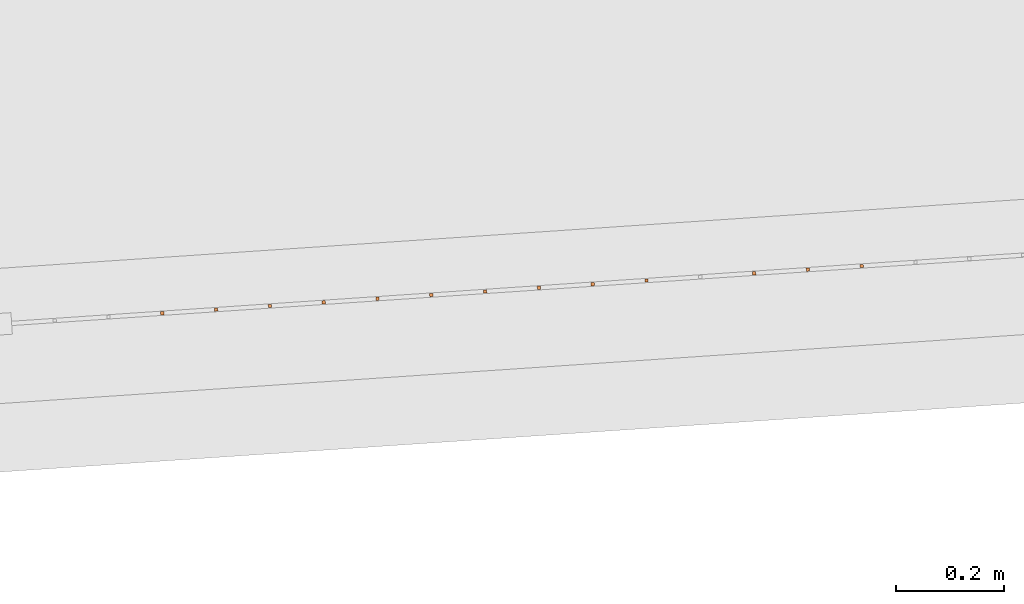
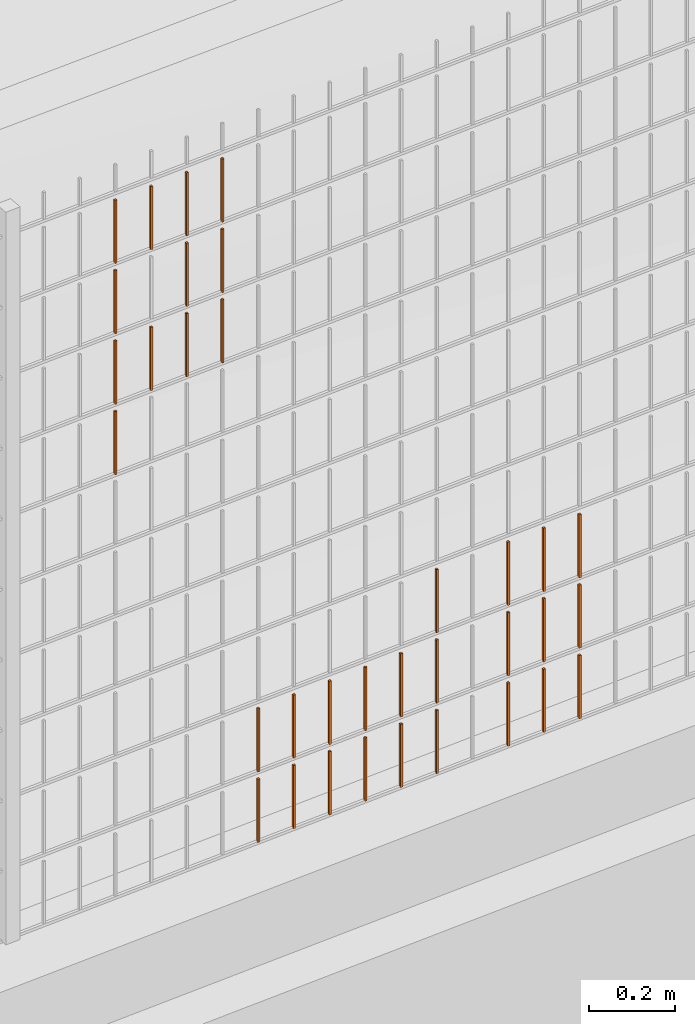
# One storey, part 374 of 1809: 34 proxies, 1 element without a shape of its own.
"""IFC2X3 building model written with IfcOpenShell, lengths in millimetres."""

from ifc_helpers import new_model, entity, si_unit, converted_unit, derived_unit, money_unit, direction, frame, origin_with_axes, place, context, subcontext, project, spatial, faceted_brep, source, transform, mapped, material, type_object, element, aggregate, save


model = new_model("IFC2X3")

# Units and contexts
model_context = context("Model", 3, precision=0.01, world=origin_with_axes(), true_north=direction((0.0, 1.0)))
body_context = subcontext(model_context, "Body", "Model", "MODEL_VIEW")
ifc_project = project(units=[si_unit("LENGTHUNIT", "METRE", prefix="MILLI"), si_unit("AREAUNIT", "SQUARE_METRE"), si_unit("VOLUMEUNIT", "CUBIC_METRE"), converted_unit("PLANEANGLEUNIT", "DEGREE", entity("IfcPlaneAngleMeasure", 0.0174532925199), si_unit("PLANEANGLEUNIT", "RADIAN"), dimensions=[0, 0, 0, 0, 0, 0, 0]), si_unit("SOLIDANGLEUNIT", "STERADIAN"), money_unit("EUR"), converted_unit("TIMEUNIT", "Year", entity("IfcTimeMeasure", 31556926.0), si_unit("TIMEUNIT", "SECOND"), dimensions=[0, 0, 1, 0, 0, 0, 0]), si_unit("MASSUNIT", "GRAM", prefix="KILO"), si_unit("THERMODYNAMICTEMPERATUREUNIT", "DEGREE_CELSIUS"), si_unit("LUMINOUSINTENSITYUNIT", "LUMEN"), si_unit("ENERGYUNIT", "JOULE", prefix="MEGA"), derived_unit("THERMALCONDUCTANCEUNIT", [(si_unit("POWERUNIT", "WATT"), 1), (si_unit("LENGTHUNIT", "METRE"), -1), (si_unit("THERMODYNAMICTEMPERATUREUNIT", "KELVIN"), -1)]), derived_unit("SPECIFICHEATCAPACITYUNIT", [(si_unit("ENERGYUNIT", "JOULE"), 1), (si_unit("MASSUNIT", "GRAM", prefix="KILO"), -1), (si_unit("THERMODYNAMICTEMPERATUREUNIT", "KELVIN"), -1)]), derived_unit("MASSDENSITYUNIT", [(si_unit("MASSUNIT", "GRAM", prefix="KILO"), 1), (si_unit("VOLUMEUNIT", "CUBIC_METRE"), -1)])], contexts=[model_context])

# Site, building, storey
site_placement = place(None, origin_with_axes())
site = spatial("IfcSite", under=ifc_project, at=site_placement, Name="Politse- ja Piirivalveameti ning Päästeameti ühishoone", CompositionType="ELEMENT")
building_placement = place(site_placement, origin_with_axes())
building = spatial("IfcBuilding", under=site, at=building_placement, Name="Politse- ja Piirivalveameti ning Päästeameti ühishoone", CompositionType="ELEMENT")
storey_placement = place(building_placement, origin_with_axes())
storey = spatial("IfcBuildingStorey", under=building, at=storey_placement, Name="Esimene korrus", CompositionType="ELEMENT", Elevation=0.0)

# Proxies
building_element_proxy_type_1 = type_object("IfcBuildingElementProxyType", Name="Railing Type", PredefinedType="NOTDEFINED")
proxy_1_placement = place(storey_placement, frame((89252.001212, -29183.4766571, 203.661247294), z_axis=(0.0, 0.0, 1.0), x_axis=(1.0, 0.0, 0.0)))
proxy_1 = element("IfcBuildingElementProxy", 1, at=proxy_1_placement, inside=storey, type_object=building_element_proxy_type_1, Name="PIIRDEAED")
ifc_material = material(Name="ET-03_Raud")
building_element_proxy_type_2 = type_object("IfcBuildingElementProxyType", Name="IfcBuildingElementProxy", PredefinedType="NOTDEFINED")
shared_shape_1 = source(origin_with_axes(), body_context, "Body", "Brep", [
    faceted_brep([(3.0, 3.0, -0.000752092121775), (-3.0, 3.0, -0.000752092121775), (-3.0, 3.0, 179.99926046), (3.0, 3.0, 179.99926046), (3.0, -3.0, 0.000752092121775), (-3.0, -3.0, 0.000752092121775), (-3.0, -3.0, 180.000764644), (3.0, -3.0, 180.000764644)], [[[0, 1, 2, 3]], [[0, 4, 5, 1]], [[1, 5, 6, 2]], [[3, 2, 6, 7]], [[4, 0, 3, 7]], [[5, 4, 7, 6]]]),
])
proxy_2_placement = place(proxy_1_placement, frame((-18883.6587166, -18573.2946436, 22.4895145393), z_axis=(0.0, 0.0, 1.0), x_axis=(1.0, 0.0, 0.0)))
proxy_2 = element("IfcBuildingElementProxy", 2, at=proxy_2_placement, type_object=building_element_proxy_type_2, material=ifc_material, Name="BALUSTER - 001", context=body_context, shape_type="MappedRepresentation", body=[
    mapped(shared_shape_1, transform((0.0, 0.0, 0.0), x_axis=(-0.0673926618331, 0.997726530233, 0.0), y_axis=(-0.997726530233, -0.0673926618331, 0.0), z_axis=(0.0, 0.0, 1.0))),
])
proxy_3_placement = place(proxy_1_placement, frame((-19083.2040226, -18586.7731759, 22.4393750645), z_axis=(0.0, 0.0, 1.0), x_axis=(1.0, 0.0, 0.0)))
proxy_3 = element("IfcBuildingElementProxy", 3, at=proxy_3_placement, type_object=building_element_proxy_type_2, material=ifc_material, Name="BALUSTER - 001", context=body_context, shape_type="MappedRepresentation", body=[
    mapped(shared_shape_1, transform((0.0, 0.0, 0.0), x_axis=(-0.0673926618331, 0.997726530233, 0.0), y_axis=(-0.997726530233, -0.0673926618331, 0.0), z_axis=(0.0, 0.0, 1.0))),
])
shared_shape_2 = source(origin_with_axes(), body_context, "Body", "Brep", [
    faceted_brep([(3.0, 3.0, -0.000752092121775), (-3.0, 3.0, -0.000752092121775), (-3.0, 3.0, 179.99926046), (3.0, 3.0, 179.99926046), (3.0, -3.0, 0.000752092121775), (-3.0, -3.0, 0.000752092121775), (-3.0, -3.0, 180.000764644), (3.0, -3.0, 180.000764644)], [[[0, 1, 2, 3]], [[0, 4, 5, 1]], [[1, 5, 6, 2]], [[3, 2, 6, 7]], [[4, 0, 3, 7]], [[5, 4, 7, 6]]]),
])
proxy_4_placement = place(proxy_1_placement, frame((-18384.7954515, -18539.5983126, 22.6148632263), z_axis=(0.0, 0.0, 1.0), x_axis=(1.0, 0.0, 0.0)))
proxy_4 = element("IfcBuildingElementProxy", 4, at=proxy_4_placement, type_object=building_element_proxy_type_2, material=ifc_material, Name="BALUSTER - 001", context=body_context, shape_type="MappedRepresentation", body=[
    mapped(shared_shape_2, transform((0.0, 0.0, 0.0), x_axis=(-0.0673926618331, 0.997726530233, 0.0), y_axis=(-0.997726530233, -0.0673926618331, 0.0), z_axis=(0.0, 0.0, 1.0))),
])
shared_shape_3 = source(origin_with_axes(), body_context, "Body", "Brep", [
    faceted_brep([(3.0, 3.0, -0.000752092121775), (-3.0, 3.0, -0.000752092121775), (-3.0, 3.0, 179.99926046), (3.0, 3.0, 179.99926046), (3.0, -3.0, 0.000752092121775), (-3.0, -3.0, 0.000752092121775), (-3.0, -3.0, 180.000764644), (3.0, -3.0, 180.000764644)], [[[0, 1, 2, 3]], [[0, 4, 5, 1]], [[1, 5, 6, 2]], [[3, 2, 6, 7]], [[4, 0, 3, 7]], [[5, 4, 7, 6]]]),
])
proxy_5_placement = place(proxy_1_placement, frame((-19382.5219817, -18606.9909745, 1422.36416585), z_axis=(0.0, 0.0, 1.0), x_axis=(1.0, 0.0, 0.0)))
proxy_5 = element("IfcBuildingElementProxy", 5, at=proxy_5_placement, type_object=building_element_proxy_type_2, material=ifc_material, Name="BALUSTER - 001", context=body_context, shape_type="MappedRepresentation", body=[
    mapped(shared_shape_3, transform((0.0, 0.0, 0.0), x_axis=(-0.0673926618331, 0.997726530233, 0.0), y_axis=(-0.997726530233, -0.0673926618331, 0.0), z_axis=(0.0, 0.0, 1.0))),
])
shared_shape_4 = source(origin_with_axes(), body_context, "Body", "Brep", [
    faceted_brep([(3.0, 3.0, -0.000752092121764), (-3.0, 3.0, -0.000752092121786), (-3.0, 3.0, 179.99926046), (3.0, 3.0, 179.99926046), (3.0, -3.0, 0.000752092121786), (-3.0, -3.0, 0.000752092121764), (-3.0, -3.0, 180.000764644), (3.0, -3.0, 180.000764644)], [[[0, 1, 2, 3]], [[0, 4, 5, 1]], [[1, 5, 6, 2]], [[3, 2, 6, 7]], [[4, 0, 3, 7]], [[5, 4, 7, 6]]]),
])
proxy_6_placement = place(proxy_1_placement, frame((-18285.0227984, -18532.8590465, 22.6399329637), z_axis=(0.0, 0.0, 1.0), x_axis=(1.0, 0.0, 0.0)))
proxy_6 = element("IfcBuildingElementProxy", 6, at=proxy_6_placement, type_object=building_element_proxy_type_2, material=ifc_material, Name="BALUSTER - 001", context=body_context, shape_type="MappedRepresentation", body=[
    mapped(shared_shape_4, transform((0.0, 0.0, 0.0), x_axis=(-0.0673926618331, 0.997726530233, 0.0), y_axis=(-0.997726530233, -0.0673926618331, 0.0), z_axis=(0.0, 0.0, 1.0))),
])
shared_shape_5 = source(origin_with_axes(), body_context, "Body", "Brep", [
    faceted_brep([(3.0, 3.0, -0.000752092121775), (-3.0, 3.0, -0.000752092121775), (-3.0, 3.0, 179.99926046), (3.0, 3.0, 179.99926046), (3.0, -3.0, 0.000752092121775), (-3.0, -3.0, 0.000752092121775), (-3.0, -3.0, 180.000764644), (3.0, -3.0, 180.000764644)], [[[0, 1, 2, 3]], [[0, 4, 5, 1]], [[1, 5, 6, 2]], [[3, 2, 6, 7]], [[4, 0, 3, 7]], [[5, 4, 7, 6]]]),
])
proxy_7_placement = place(proxy_1_placement, frame((-18384.7954515, -18539.5983126, 222.614863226), z_axis=(0.0, 0.0, 1.0), x_axis=(1.0, 0.0, 0.0)))
proxy_7 = element("IfcBuildingElementProxy", 7, at=proxy_7_placement, type_object=building_element_proxy_type_2, material=ifc_material, Name="BALUSTER - 001", context=body_context, shape_type="MappedRepresentation", body=[
    mapped(shared_shape_5, transform((0.0, 0.0, 0.0), x_axis=(-0.0673926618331, 0.997726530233, 0.0), y_axis=(-0.997726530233, -0.0673926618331, 0.0), z_axis=(0.0, 0.0, 1.0))),
])
proxy_8_placement = place(proxy_1_placement, frame((-18384.7954515, -18539.5983126, 422.614863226), z_axis=(0.0, 0.0, 1.0), x_axis=(1.0, 0.0, 0.0)))
proxy_8 = element("IfcBuildingElementProxy", 8, at=proxy_8_placement, type_object=building_element_proxy_type_2, material=ifc_material, Name="BALUSTER - 001", context=body_context, shape_type="MappedRepresentation", body=[
    mapped(shared_shape_5, transform((0.0, 0.0, 0.0), x_axis=(-0.0673926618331, 0.997726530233, 0.0), y_axis=(-0.997726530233, -0.0673926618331, 0.0), z_axis=(0.0, 0.0, 1.0))),
])
shared_shape_6 = source(origin_with_axes(), body_context, "Body", "Brep", [
    faceted_brep([(3.0, 3.0, -0.000752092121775), (-3.0, 3.0, -0.000752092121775), (-3.0, 3.0, 179.99926046), (3.0, 3.0, 179.99926046), (3.0, -3.0, 0.000752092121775), (-3.0, -3.0, 0.000752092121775), (-3.0, -3.0, 180.000764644), (3.0, -3.0, 180.000764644)], [[[0, 1, 2, 3]], [[0, 4, 5, 1]], [[1, 5, 6, 2]], [[3, 2, 6, 7]], [[4, 0, 3, 7]], [[5, 4, 7, 6]]]),
])
proxy_9_placement = place(proxy_1_placement, frame((-18883.6587166, -18573.2946436, 222.489514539), z_axis=(0.0, 0.0, 1.0), x_axis=(1.0, 0.0, 0.0)))
proxy_9 = element("IfcBuildingElementProxy", 9, at=proxy_9_placement, type_object=building_element_proxy_type_2, material=ifc_material, Name="BALUSTER - 001", context=body_context, shape_type="MappedRepresentation", body=[
    mapped(shared_shape_6, transform((0.0, 0.0, 0.0), x_axis=(-0.0673926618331, 0.997726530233, 0.0), y_axis=(-0.997726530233, -0.0673926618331, 0.0), z_axis=(0.0, 0.0, 1.0))),
])
shared_shape_7 = source(origin_with_axes(), body_context, "Body", "Brep", [
    faceted_brep([(3.0, 3.0, -0.000752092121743), (-3.0, 3.0, -0.000752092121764), (-3.0, 3.0, 179.99926046), (3.0, 3.0, 179.99926046), (3.0, -3.0, 0.000752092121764), (-3.0, -3.0, 0.000752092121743), (-3.0, -3.0, 180.000764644), (3.0, -3.0, 180.000764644)], [[[0, 1, 2, 3]], [[0, 4, 5, 1]], [[1, 5, 6, 2]], [[3, 2, 6, 7]], [[4, 0, 3, 7]], [[5, 4, 7, 6]]]),
])
proxy_10_placement = place(proxy_1_placement, frame((-18584.3407575, -18553.076845, 422.564723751), z_axis=(0.0, 0.0, 1.0), x_axis=(1.0, 0.0, 0.0)))
proxy_10 = element("IfcBuildingElementProxy", 10, at=proxy_10_placement, type_object=building_element_proxy_type_2, material=ifc_material, Name="BALUSTER - 001", context=body_context, shape_type="MappedRepresentation", body=[
    mapped(shared_shape_7, transform((0.0, 0.0, 0.0), x_axis=(-0.0673926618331, 0.997726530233, 0.0), y_axis=(-0.997726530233, -0.0673926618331, 0.0), z_axis=(0.0, 0.0, 1.0))),
])
shared_shape_8 = source(origin_with_axes(), body_context, "Body", "Brep", [
    faceted_brep([(3.0, 3.0, -0.000752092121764), (-3.0, 3.0, -0.000752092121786), (-3.0, 3.0, 179.99926046), (3.0, 3.0, 179.99926046), (3.0, -3.0, 0.000752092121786), (-3.0, -3.0, 0.000752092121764), (-3.0, -3.0, 180.000764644), (3.0, -3.0, 180.000764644)], [[[0, 1, 2, 3]], [[0, 4, 5, 1]], [[1, 5, 6, 2]], [[3, 2, 6, 7]], [[4, 0, 3, 7]], [[5, 4, 7, 6]]]),
])
proxy_11_placement = place(proxy_1_placement, frame((-18285.0227984, -18532.8590465, 222.639932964), z_axis=(0.0, 0.0, 1.0), x_axis=(1.0, 0.0, 0.0)))
proxy_11 = element("IfcBuildingElementProxy", 11, at=proxy_11_placement, type_object=building_element_proxy_type_2, material=ifc_material, Name="BALUSTER - 001", context=body_context, shape_type="MappedRepresentation", body=[
    mapped(shared_shape_8, transform((0.0, 0.0, 0.0), x_axis=(-0.0673926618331, 0.997726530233, 0.0), y_axis=(-0.997726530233, -0.0673926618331, 0.0), z_axis=(0.0, 0.0, 1.0))),
])
shared_shape_9 = source(origin_with_axes(), body_context, "Body", "Brep", [
    faceted_brep([(3.0, 3.0, -0.000752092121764), (-3.0, 3.0, -0.000752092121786), (-3.0, 3.0, 179.99926046), (3.0, 3.0, 179.99926046), (3.0, -3.0, 0.000752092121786), (-3.0, -3.0, 0.000752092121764), (-3.0, -3.0, 180.000764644), (3.0, -3.0, 180.000764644)], [[[0, 1, 2, 3]], [[0, 4, 5, 1]], [[1, 5, 6, 2]], [[3, 2, 6, 7]], [[4, 0, 3, 7]], [[5, 4, 7, 6]]]),
])
proxy_12_placement = place(proxy_1_placement, frame((-18783.8860636, -18566.5553774, 222.514584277), z_axis=(0.0, 0.0, 1.0), x_axis=(1.0, 0.0, 0.0)))
proxy_12 = element("IfcBuildingElementProxy", 12, at=proxy_12_placement, type_object=building_element_proxy_type_2, material=ifc_material, Name="BALUSTER - 001", context=body_context, shape_type="MappedRepresentation", body=[
    mapped(shared_shape_9, transform((0.0, 0.0, 0.0), x_axis=(-0.0673926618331, 0.997726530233, 0.0), y_axis=(-0.997726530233, -0.0673926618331, 0.0), z_axis=(0.0, 0.0, 1.0))),
])
proxy_13_placement = place(proxy_1_placement, frame((-18285.0227984, -18532.8590465, 422.639932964), z_axis=(0.0, 0.0, 1.0), x_axis=(1.0, 0.0, 0.0)))
proxy_13 = element("IfcBuildingElementProxy", 13, at=proxy_13_placement, type_object=building_element_proxy_type_2, material=ifc_material, Name="BALUSTER - 001", context=body_context, shape_type="MappedRepresentation", body=[
    mapped(shared_shape_9, transform((0.0, 0.0, 0.0), x_axis=(-0.0673926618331, 0.997726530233, 0.0), y_axis=(-0.997726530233, -0.0673926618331, 0.0), z_axis=(0.0, 0.0, 1.0))),
])
shared_shape_10 = source(origin_with_axes(), body_context, "Body", "Brep", [
    faceted_brep([(3.0, 3.0, -0.000752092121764), (-3.0, 3.0, -0.000752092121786), (-3.0, 3.0, 179.99926046), (3.0, 3.0, 179.99926046), (3.0, -3.0, 0.000752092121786), (-3.0, -3.0, 0.000752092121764), (-3.0, -3.0, 180.000764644), (3.0, -3.0, 180.000764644)], [[[0, 1, 2, 3]], [[0, 4, 5, 1]], [[1, 5, 6, 2]], [[3, 2, 6, 7]], [[4, 0, 3, 7]], [[5, 4, 7, 6]]]),
])
proxy_14_placement = place(proxy_1_placement, frame((-18185.2501454, -18526.1197803, 222.665002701), z_axis=(0.0, 0.0, 1.0), x_axis=(1.0, 0.0, 0.0)))
proxy_14 = element("IfcBuildingElementProxy", 14, at=proxy_14_placement, type_object=building_element_proxy_type_2, material=ifc_material, Name="BALUSTER - 001", context=body_context, shape_type="MappedRepresentation", body=[
    mapped(shared_shape_10, transform((0.0, 0.0, 0.0), x_axis=(-0.0673926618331, 0.997726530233, 0.0), y_axis=(-0.997726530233, -0.0673926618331, 0.0), z_axis=(0.0, 0.0, 1.0))),
])
proxy_15_placement = place(proxy_1_placement, frame((-18185.2501454, -18526.1197803, 422.665002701), z_axis=(0.0, 0.0, 1.0), x_axis=(1.0, 0.0, 0.0)))
proxy_15 = element("IfcBuildingElementProxy", 15, at=proxy_15_placement, type_object=building_element_proxy_type_2, material=ifc_material, Name="BALUSTER - 001", context=body_context, shape_type="MappedRepresentation", body=[
    mapped(shared_shape_10, transform((0.0, 0.0, 0.0), x_axis=(-0.0673926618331, 0.997726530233, 0.0), y_axis=(-0.997726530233, -0.0673926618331, 0.0), z_axis=(0.0, 0.0, 1.0))),
])
shared_shape_11 = source(origin_with_axes(), body_context, "Body", "Brep", [
    faceted_brep([(3.0, 3.0, -0.000752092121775), (-3.0, 3.0, -0.000752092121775), (-3.0, 3.0, 179.99926046), (3.0, 3.0, 179.99926046), (3.0, -3.0, 0.000752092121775), (-3.0, -3.0, 0.000752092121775), (-3.0, -3.0, 180.000764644), (3.0, -3.0, 180.000764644)], [[[0, 1, 2, 3]], [[0, 4, 5, 1]], [[1, 5, 6, 2]], [[3, 2, 6, 7]], [[4, 0, 3, 7]], [[5, 4, 7, 6]]]),
])
proxy_16_placement = place(proxy_1_placement, frame((-19482.2946347, -18613.7302407, 1222.33909611), z_axis=(0.0, 0.0, 1.0), x_axis=(1.0, 0.0, 0.0)))
proxy_16 = element("IfcBuildingElementProxy", 16, at=proxy_16_placement, type_object=building_element_proxy_type_2, material=ifc_material, Name="BALUSTER - 001", context=body_context, shape_type="MappedRepresentation", body=[
    mapped(shared_shape_11, transform((0.0, 0.0, 0.0), x_axis=(-0.0673926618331, 0.997726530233, 0.0), y_axis=(-0.997726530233, -0.0673926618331, 0.0), z_axis=(0.0, 0.0, 1.0))),
])
shared_shape_12 = source(origin_with_axes(), body_context, "Body", "Brep", [
    faceted_brep([(3.0, 3.0, -0.000752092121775), (-3.0, 3.0, -0.000752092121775), (-3.0, 3.0, 179.99926046), (3.0, 3.0, 179.99926046), (3.0, -3.0, 0.000752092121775), (-3.0, -3.0, 0.000752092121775), (-3.0, -3.0, 180.000764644), (3.0, -3.0, 180.000764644)], [[[0, 1, 2, 3]], [[0, 4, 5, 1]], [[1, 5, 6, 2]], [[3, 2, 6, 7]], [[4, 0, 3, 7]], [[5, 4, 7, 6]]]),
])
proxy_17_placement = place(proxy_1_placement, frame((-19182.9766757, -18593.5124421, 1822.41430533), z_axis=(0.0, 0.0, 1.0), x_axis=(1.0, 0.0, 0.0)))
proxy_17 = element("IfcBuildingElementProxy", 17, at=proxy_17_placement, type_object=building_element_proxy_type_2, material=ifc_material, Name="BALUSTER - 001", context=body_context, shape_type="MappedRepresentation", body=[
    mapped(shared_shape_12, transform((0.0, 0.0, 0.0), x_axis=(-0.0673926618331, 0.997726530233, 0.0), y_axis=(-0.997726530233, -0.0673926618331, 0.0), z_axis=(0.0, 0.0, 1.0))),
])
shared_shape_13 = source(origin_with_axes(), body_context, "Body", "Brep", [
    faceted_brep([(3.0, 3.0, -0.000752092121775), (-3.0, 3.0, -0.000752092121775), (-3.0, 3.0, 179.99926046), (3.0, 3.0, 179.99926046), (3.0, -3.0, 0.000752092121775), (-3.0, -3.0, 0.000752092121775), (-3.0, -3.0, 180.000764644), (3.0, -3.0, 180.000764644)], [[[0, 1, 2, 3]], [[0, 4, 5, 1]], [[1, 5, 6, 2]], [[3, 2, 6, 7]], [[4, 0, 3, 7]], [[5, 4, 7, 6]]]),
])
proxy_18_placement = place(proxy_1_placement, frame((-19382.5219817, -18606.9909745, 1822.36416585), z_axis=(0.0, 0.0, 1.0), x_axis=(1.0, 0.0, 0.0)))
proxy_18 = element("IfcBuildingElementProxy", 18, at=proxy_18_placement, type_object=building_element_proxy_type_2, material=ifc_material, Name="BALUSTER - 001", context=body_context, shape_type="MappedRepresentation", body=[
    mapped(shared_shape_13, transform((0.0, 0.0, 0.0), x_axis=(-0.0673926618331, 0.997726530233, 0.0), y_axis=(-0.997726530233, -0.0673926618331, 0.0), z_axis=(0.0, 0.0, 1.0))),
])
shared_shape_14 = source(origin_with_axes(), body_context, "Body", "Brep", [
    faceted_brep([(3.0, 3.0, -0.000752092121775), (-3.0, 3.0, -0.000752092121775), (-3.0, 3.0, 179.99926046), (3.0, 3.0, 179.99926046), (3.0, -3.0, 0.000752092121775), (-3.0, -3.0, 0.000752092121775), (-3.0, -3.0, 180.000764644), (3.0, -3.0, 180.000764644)], [[[0, 1, 2, 3]], [[0, 4, 5, 1]], [[1, 5, 6, 2]], [[3, 2, 6, 7]], [[4, 0, 3, 7]], [[5, 4, 7, 6]]]),
])
proxy_19_placement = place(proxy_1_placement, frame((-19482.2946347, -18613.7302407, 1822.33909611), z_axis=(0.0, 0.0, 1.0), x_axis=(1.0, 0.0, 0.0)))
proxy_19 = element("IfcBuildingElementProxy", 19, at=proxy_19_placement, type_object=building_element_proxy_type_2, material=ifc_material, Name="BALUSTER - 001", context=body_context, shape_type="MappedRepresentation", body=[
    mapped(shared_shape_14, transform((0.0, 0.0, 0.0), x_axis=(-0.0673926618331, 0.997726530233, 0.0), y_axis=(-0.997726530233, -0.0673926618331, 0.0), z_axis=(0.0, 0.0, 1.0))),
])
shared_shape_15 = source(origin_with_axes(), body_context, "Body", "Brep", [
    faceted_brep([(3.0, 3.0, -0.000752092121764), (-3.0, 3.0, -0.000752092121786), (-3.0, 3.0, 179.99926046), (3.0, 3.0, 179.99926046), (3.0, -3.0, 0.000752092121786), (-3.0, -3.0, 0.000752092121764), (-3.0, -3.0, 180.000764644), (3.0, -3.0, 180.000764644)], [[[0, 1, 2, 3]], [[0, 4, 5, 1]], [[1, 5, 6, 2]], [[3, 2, 6, 7]], [[4, 0, 3, 7]], [[5, 4, 7, 6]]]),
])
proxy_20_placement = place(proxy_1_placement, frame((-19282.7493287, -18600.2517083, 1822.38923559), z_axis=(0.0, 0.0, 1.0), x_axis=(1.0, 0.0, 0.0)))
proxy_20 = element("IfcBuildingElementProxy", 20, at=proxy_20_placement, type_object=building_element_proxy_type_2, material=ifc_material, Name="BALUSTER - 001", context=body_context, shape_type="MappedRepresentation", body=[
    mapped(shared_shape_15, transform((0.0, 0.0, 0.0), x_axis=(-0.0673926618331, 0.997726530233, 0.0), y_axis=(-0.997726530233, -0.0673926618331, 0.0), z_axis=(0.0, 0.0, 1.0))),
])
shared_shape_16 = source(origin_with_axes(), body_context, "Body", "Brep", [
    faceted_brep([(3.0, 3.0, -0.000752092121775), (-3.0, 3.0, -0.000752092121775), (-3.0, 3.0, 179.99926046), (3.0, 3.0, 179.99926046), (3.0, -3.0, 0.000752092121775), (-3.0, -3.0, 0.000752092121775), (-3.0, -3.0, 180.000764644), (3.0, -3.0, 180.000764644)], [[[0, 1, 2, 3]], [[0, 4, 5, 1]], [[1, 5, 6, 2]], [[3, 2, 6, 7]], [[4, 0, 3, 7]], [[5, 4, 7, 6]]]),
])
proxy_21_placement = place(proxy_1_placement, frame((-19182.9766757, -18593.5124421, 1422.41430533), z_axis=(0.0, 0.0, 1.0), x_axis=(1.0, 0.0, 0.0)))
proxy_21 = element("IfcBuildingElementProxy", 21, at=proxy_21_placement, type_object=building_element_proxy_type_2, material=ifc_material, Name="BALUSTER - 001", context=body_context, shape_type="MappedRepresentation", body=[
    mapped(shared_shape_16, transform((0.0, 0.0, 0.0), x_axis=(-0.0673926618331, 0.997726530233, 0.0), y_axis=(-0.997726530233, -0.0673926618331, 0.0), z_axis=(0.0, 0.0, 1.0))),
])
proxy_22_placement = place(proxy_1_placement, frame((-19182.9766757, -18593.5124421, 1622.41430533), z_axis=(0.0, 0.0, 1.0), x_axis=(1.0, 0.0, 0.0)))
proxy_22 = element("IfcBuildingElementProxy", 22, at=proxy_22_placement, type_object=building_element_proxy_type_2, material=ifc_material, Name="BALUSTER - 001", context=body_context, shape_type="MappedRepresentation", body=[
    mapped(shared_shape_16, transform((0.0, 0.0, 0.0), x_axis=(-0.0673926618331, 0.997726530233, 0.0), y_axis=(-0.997726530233, -0.0673926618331, 0.0), z_axis=(0.0, 0.0, 1.0))),
])
shared_shape_17 = source(origin_with_axes(), body_context, "Body", "Brep", [
    faceted_brep([(3.0, 3.0, -0.000752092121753), (-3.0, 3.0, -0.000752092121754), (-3.0, 3.0, 179.99926046), (3.0, 3.0, 179.99926046), (3.0, -3.0, 0.000752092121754), (-3.0, -3.0, 0.000752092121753), (-3.0, -3.0, 180.000764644), (3.0, -3.0, 180.000764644)], [[[0, 1, 2, 3]], [[0, 4, 5, 1]], [[1, 5, 6, 2]], [[3, 2, 6, 7]], [[4, 0, 3, 7]], [[5, 4, 7, 6]]]),
])
proxy_23_placement = place(proxy_1_placement, frame((-18684.1134105, -18559.8161112, 22.5396540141), z_axis=(0.0, 0.0, 1.0), x_axis=(1.0, 0.0, 0.0)))
proxy_23 = element("IfcBuildingElementProxy", 23, at=proxy_23_placement, type_object=building_element_proxy_type_2, material=ifc_material, Name="BALUSTER - 001", context=body_context, shape_type="MappedRepresentation", body=[
    mapped(shared_shape_17, transform((0.0, 0.0, 0.0), x_axis=(-0.0673926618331, 0.997726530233, 0.0), y_axis=(-0.997726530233, -0.0673926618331, 0.0), z_axis=(0.0, 0.0, 1.0))),
])
proxy_24_placement = place(proxy_1_placement, frame((-18684.1134105, -18559.8161112, 222.539654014), z_axis=(0.0, 0.0, 1.0), x_axis=(1.0, 0.0, 0.0)))
proxy_24 = element("IfcBuildingElementProxy", 24, at=proxy_24_placement, type_object=building_element_proxy_type_2, material=ifc_material, Name="BALUSTER - 001", context=body_context, shape_type="MappedRepresentation", body=[
    mapped(shared_shape_17, transform((0.0, 0.0, 0.0), x_axis=(-0.0673926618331, 0.997726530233, 0.0), y_axis=(-0.997726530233, -0.0673926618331, 0.0), z_axis=(0.0, 0.0, 1.0))),
])
shared_shape_18 = source(origin_with_axes(), body_context, "Body", "Brep", [
    faceted_brep([(3.0, 3.0, -0.000752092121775), (-3.0, 3.0, -0.000752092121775), (-3.0, 3.0, 179.99926046), (3.0, 3.0, 179.99926046), (3.0, -3.0, 0.000752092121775), (-3.0, -3.0, 0.000752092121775), (-3.0, -3.0, 180.000764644), (3.0, -3.0, 180.000764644)], [[[0, 1, 2, 3]], [[0, 4, 5, 1]], [[1, 5, 6, 2]], [[3, 2, 6, 7]], [[4, 0, 3, 7]], [[5, 4, 7, 6]]]),
])
proxy_25_placement = place(proxy_1_placement, frame((-19482.2946347, -18613.7302407, 1422.33909611), z_axis=(0.0, 0.0, 1.0), x_axis=(1.0, 0.0, 0.0)))
proxy_25 = element("IfcBuildingElementProxy", 25, at=proxy_25_placement, type_object=building_element_proxy_type_2, material=ifc_material, Name="BALUSTER - 001", context=body_context, shape_type="MappedRepresentation", body=[
    mapped(shared_shape_18, transform((0.0, 0.0, 0.0), x_axis=(-0.0673926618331, 0.997726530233, 0.0), y_axis=(-0.997726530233, -0.0673926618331, 0.0), z_axis=(0.0, 0.0, 1.0))),
])
proxy_26_placement = place(proxy_1_placement, frame((-19482.2946347, -18613.7302407, 1622.33909611), z_axis=(0.0, 0.0, 1.0), x_axis=(1.0, 0.0, 0.0)))
proxy_26 = element("IfcBuildingElementProxy", 26, at=proxy_26_placement, type_object=building_element_proxy_type_2, material=ifc_material, Name="BALUSTER - 001", context=body_context, shape_type="MappedRepresentation", body=[
    mapped(shared_shape_18, transform((0.0, 0.0, 0.0), x_axis=(-0.0673926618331, 0.997726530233, 0.0), y_axis=(-0.997726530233, -0.0673926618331, 0.0), z_axis=(0.0, 0.0, 1.0))),
])
shared_shape_19 = source(origin_with_axes(), body_context, "Body", "Brep", [
    faceted_brep([(3.0, 3.0, -0.000752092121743), (-3.0, 3.0, -0.000752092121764), (-3.0, 3.0, 179.99926046), (3.0, 3.0, 179.99926046), (3.0, -3.0, 0.000752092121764), (-3.0, -3.0, 0.000752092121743), (-3.0, -3.0, 180.000764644), (3.0, -3.0, 180.000764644)], [[[0, 1, 2, 3]], [[0, 4, 5, 1]], [[1, 5, 6, 2]], [[3, 2, 6, 7]], [[4, 0, 3, 7]], [[5, 4, 7, 6]]]),
])
proxy_27_placement = place(proxy_1_placement, frame((-18584.3407575, -18553.076845, 22.5647237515), z_axis=(0.0, 0.0, 1.0), x_axis=(1.0, 0.0, 0.0)))
proxy_27 = element("IfcBuildingElementProxy", 27, at=proxy_27_placement, type_object=building_element_proxy_type_2, material=ifc_material, Name="BALUSTER - 001", context=body_context, shape_type="MappedRepresentation", body=[
    mapped(shared_shape_19, transform((0.0, 0.0, 0.0), x_axis=(-0.0673926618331, 0.997726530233, 0.0), y_axis=(-0.997726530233, -0.0673926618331, 0.0), z_axis=(0.0, 0.0, 1.0))),
])
shared_shape_20 = source(origin_with_axes(), body_context, "Body", "Brep", [
    faceted_brep([(3.0, 3.0, -0.000752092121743), (-3.0, 3.0, -0.000752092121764), (-3.0, 3.0, 179.99926046), (3.0, 3.0, 179.99926046), (3.0, -3.0, 0.000752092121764), (-3.0, -3.0, 0.000752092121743), (-3.0, -3.0, 180.000764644), (3.0, -3.0, 180.000764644)], [[[0, 1, 2, 3]], [[0, 4, 5, 1]], [[1, 5, 6, 2]], [[3, 2, 6, 7]], [[4, 0, 3, 7]], [[5, 4, 7, 6]]]),
])
proxy_28_placement = place(proxy_1_placement, frame((-18584.3407575, -18553.076845, 222.564723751), z_axis=(0.0, 0.0, 1.0), x_axis=(1.0, 0.0, 0.0)))
proxy_28 = element("IfcBuildingElementProxy", 28, at=proxy_28_placement, type_object=building_element_proxy_type_2, material=ifc_material, Name="BALUSTER - 001", context=body_context, shape_type="MappedRepresentation", body=[
    mapped(shared_shape_20, transform((0.0, 0.0, 0.0), x_axis=(-0.0673926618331, 0.997726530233, 0.0), y_axis=(-0.997726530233, -0.0673926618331, 0.0), z_axis=(0.0, 0.0, 1.0))),
])
shared_shape_21 = source(origin_with_axes(), body_context, "Body", "Brep", [
    faceted_brep([(3.0, 3.0, -0.000752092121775), (-3.0, 3.0, -0.000752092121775), (-3.0, 3.0, 179.99926046), (3.0, 3.0, 179.99926046), (3.0, -3.0, 0.000752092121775), (-3.0, -3.0, 0.000752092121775), (-3.0, -3.0, 180.000764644), (3.0, -3.0, 180.000764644)], [[[0, 1, 2, 3]], [[0, 4, 5, 1]], [[1, 5, 6, 2]], [[3, 2, 6, 7]], [[4, 0, 3, 7]], [[5, 4, 7, 6]]]),
])
proxy_29_placement = place(proxy_1_placement, frame((-18983.4313696, -18580.0339097, 222.464444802), z_axis=(0.0, 0.0, 1.0), x_axis=(1.0, 0.0, 0.0)))
proxy_29 = element("IfcBuildingElementProxy", 29, at=proxy_29_placement, type_object=building_element_proxy_type_2, material=ifc_material, Name="BALUSTER - 001", context=body_context, shape_type="MappedRepresentation", body=[
    mapped(shared_shape_21, transform((0.0, 0.0, 0.0), x_axis=(-0.0673926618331, 0.997726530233, 0.0), y_axis=(-0.997726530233, -0.0673926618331, 0.0), z_axis=(0.0, 0.0, 1.0))),
])
shared_shape_22 = source(origin_with_axes(), body_context, "Body", "Brep", [
    faceted_brep([(3.0, 3.0, -0.000752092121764), (-3.0, 3.0, -0.000752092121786), (-3.0, 3.0, 179.99926046), (3.0, 3.0, 179.99926046), (3.0, -3.0, 0.000752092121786), (-3.0, -3.0, 0.000752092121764), (-3.0, -3.0, 180.000764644), (3.0, -3.0, 180.000764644)], [[[0, 1, 2, 3]], [[0, 4, 5, 1]], [[1, 5, 6, 2]], [[3, 2, 6, 7]], [[4, 0, 3, 7]], [[5, 4, 7, 6]]]),
])
proxy_30_placement = place(proxy_1_placement, frame((-18783.8860636, -18566.5553774, 22.5145842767), z_axis=(0.0, 0.0, 1.0), x_axis=(1.0, 0.0, 0.0)))
proxy_30 = element("IfcBuildingElementProxy", 30, at=proxy_30_placement, type_object=building_element_proxy_type_2, material=ifc_material, Name="BALUSTER - 001", context=body_context, shape_type="MappedRepresentation", body=[
    mapped(shared_shape_22, transform((0.0, 0.0, 0.0), x_axis=(-0.0673926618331, 0.997726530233, 0.0), y_axis=(-0.997726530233, -0.0673926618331, 0.0), z_axis=(0.0, 0.0, 1.0))),
])
shared_shape_23 = source(origin_with_axes(), body_context, "Body", "Brep", [
    faceted_brep([(3.0, 3.0, -0.000752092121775), (-3.0, 3.0, -0.000752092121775), (-3.0, 3.0, 179.99926046), (3.0, 3.0, 179.99926046), (3.0, -3.0, 0.000752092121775), (-3.0, -3.0, 0.000752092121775), (-3.0, -3.0, 180.000764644), (3.0, -3.0, 180.000764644)], [[[0, 1, 2, 3]], [[0, 4, 5, 1]], [[1, 5, 6, 2]], [[3, 2, 6, 7]], [[4, 0, 3, 7]], [[5, 4, 7, 6]]]),
])
proxy_31_placement = place(proxy_1_placement, frame((-18983.4313696, -18580.0339097, 22.4644448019), z_axis=(0.0, 0.0, 1.0), x_axis=(1.0, 0.0, 0.0)))
proxy_31 = element("IfcBuildingElementProxy", 31, at=proxy_31_placement, type_object=building_element_proxy_type_2, material=ifc_material, Name="BALUSTER - 001", context=body_context, shape_type="MappedRepresentation", body=[
    mapped(shared_shape_23, transform((0.0, 0.0, 0.0), x_axis=(-0.0673926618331, 0.997726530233, 0.0), y_axis=(-0.997726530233, -0.0673926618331, 0.0), z_axis=(0.0, 0.0, 1.0))),
])
shared_shape_24 = source(origin_with_axes(), body_context, "Body", "Brep", [
    faceted_brep([(3.0, 3.0, -0.000752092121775), (-3.0, 3.0, -0.000752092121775), (-3.0, 3.0, 179.99926046), (3.0, 3.0, 179.99926046), (3.0, -3.0, 0.000752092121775), (-3.0, -3.0, 0.000752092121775), (-3.0, -3.0, 180.000764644), (3.0, -3.0, 180.000764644)], [[[0, 1, 2, 3]], [[0, 4, 5, 1]], [[1, 5, 6, 2]], [[3, 2, 6, 7]], [[4, 0, 3, 7]], [[5, 4, 7, 6]]]),
])
proxy_32_placement = place(proxy_1_placement, frame((-19083.2040226, -18586.7731759, 222.439375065), z_axis=(0.0, 0.0, 1.0), x_axis=(1.0, 0.0, 0.0)))
proxy_32 = element("IfcBuildingElementProxy", 32, at=proxy_32_placement, type_object=building_element_proxy_type_2, material=ifc_material, Name="BALUSTER - 001", context=body_context, shape_type="MappedRepresentation", body=[
    mapped(shared_shape_24, transform((0.0, 0.0, 0.0), x_axis=(-0.0673926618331, 0.997726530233, 0.0), y_axis=(-0.997726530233, -0.0673926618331, 0.0), z_axis=(0.0, 0.0, 1.0))),
])
shared_shape_25 = source(origin_with_axes(), body_context, "Body", "Brep", [
    faceted_brep([(3.0, 3.0, -0.000752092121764), (-3.0, 3.0, -0.000752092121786), (-3.0, 3.0, 179.99926046), (3.0, 3.0, 179.99926046), (3.0, -3.0, 0.000752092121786), (-3.0, -3.0, 0.000752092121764), (-3.0, -3.0, 180.000764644), (3.0, -3.0, 180.000764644)], [[[0, 1, 2, 3]], [[0, 4, 5, 1]], [[1, 5, 6, 2]], [[3, 2, 6, 7]], [[4, 0, 3, 7]], [[5, 4, 7, 6]]]),
])
proxy_33_placement = place(proxy_1_placement, frame((-18185.2501454, -18526.1197803, 22.665002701), z_axis=(0.0, 0.0, 1.0), x_axis=(1.0, 0.0, 0.0)))
proxy_33 = element("IfcBuildingElementProxy", 33, at=proxy_33_placement, type_object=building_element_proxy_type_2, material=ifc_material, Name="BALUSTER - 001", context=body_context, shape_type="MappedRepresentation", body=[
    mapped(shared_shape_25, transform((0.0, 0.0, 0.0), x_axis=(-0.0673926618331, 0.997726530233, 0.0), y_axis=(-0.997726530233, -0.0673926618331, 0.0), z_axis=(0.0, 0.0, 1.0))),
])
shared_shape_26 = source(origin_with_axes(), body_context, "Body", "Brep", [
    faceted_brep([(3.0, 3.0, -0.000752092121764), (-3.0, 3.0, -0.000752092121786), (-3.0, 3.0, 179.99926046), (3.0, 3.0, 179.99926046), (3.0, -3.0, 0.000752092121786), (-3.0, -3.0, 0.000752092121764), (-3.0, -3.0, 180.000764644), (3.0, -3.0, 180.000764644)], [[[0, 1, 2, 3]], [[0, 4, 5, 1]], [[1, 5, 6, 2]], [[3, 2, 6, 7]], [[4, 0, 3, 7]], [[5, 4, 7, 6]]]),
])
proxy_34_placement = place(proxy_1_placement, frame((-19282.7493287, -18600.2517083, 1422.38923559), z_axis=(0.0, 0.0, 1.0), x_axis=(1.0, 0.0, 0.0)))
proxy_34 = element("IfcBuildingElementProxy", 34, at=proxy_34_placement, type_object=building_element_proxy_type_2, material=ifc_material, Name="BALUSTER - 001", context=body_context, shape_type="MappedRepresentation", body=[
    mapped(shared_shape_26, transform((0.0, 0.0, 0.0), x_axis=(-0.0673926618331, 0.997726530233, 0.0), y_axis=(-0.997726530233, -0.0673926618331, 0.0), z_axis=(0.0, 0.0, 1.0))),
])
proxy_35_placement = place(proxy_1_placement, frame((-19282.7493287, -18600.2517083, 1622.38923559), z_axis=(0.0, 0.0, 1.0), x_axis=(1.0, 0.0, 0.0)))
proxy_35 = element("IfcBuildingElementProxy", 35, at=proxy_35_placement, type_object=building_element_proxy_type_2, material=ifc_material, Name="BALUSTER - 001", context=body_context, shape_type="MappedRepresentation", body=[
    mapped(shared_shape_26, transform((0.0, 0.0, 0.0), x_axis=(-0.0673926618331, 0.997726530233, 0.0), y_axis=(-0.997726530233, -0.0673926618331, 0.0), z_axis=(0.0, 0.0, 1.0))),
])
aggregate(proxy_1, [proxy_33, proxy_6, proxy_4, proxy_27, proxy_23, proxy_30, proxy_2, proxy_31, proxy_3, proxy_14, proxy_11, proxy_7, proxy_28, proxy_24, proxy_12, proxy_9, proxy_29, proxy_32, proxy_15, proxy_13, proxy_8, proxy_10, proxy_16, proxy_21, proxy_34, proxy_5, proxy_25, proxy_22, proxy_35, proxy_26, proxy_17, proxy_20, proxy_18, proxy_19])

save(model, "model.ifc")
